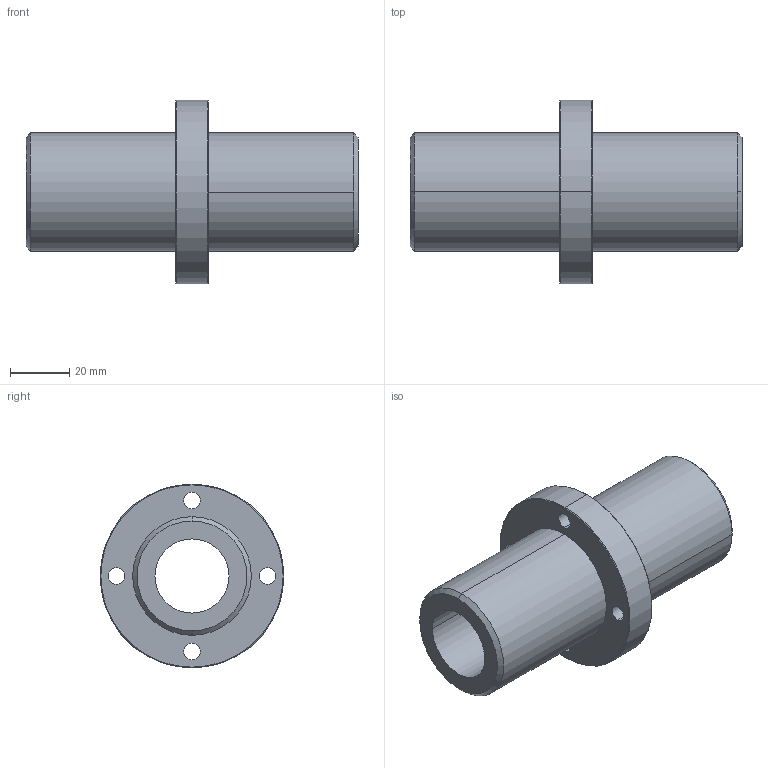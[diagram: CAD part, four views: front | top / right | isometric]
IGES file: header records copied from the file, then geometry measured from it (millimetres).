
Start section: 3D InterOp IGES (Version 21 0 1), Spatial Corp. Copyright (c) 1999-2007.
Global section: file name: CFPJR25.igs; native system: Spatial Corp.; preprocessor: 3D InterOp GENERIC/IGES 3.0; author: Noname; organization: Noname; date: 20220324.131609; units: millimetre
Bounding box: 112 x 62 x 62 mm (x, y, z)
Surface area: 29197.1 mm2 (no closed solid volume)
Topology: 0 solids, 0 shells, 40 faces, 180 edges, 180 vertices
Faces by surface type: revolution 32, extrusion 8
